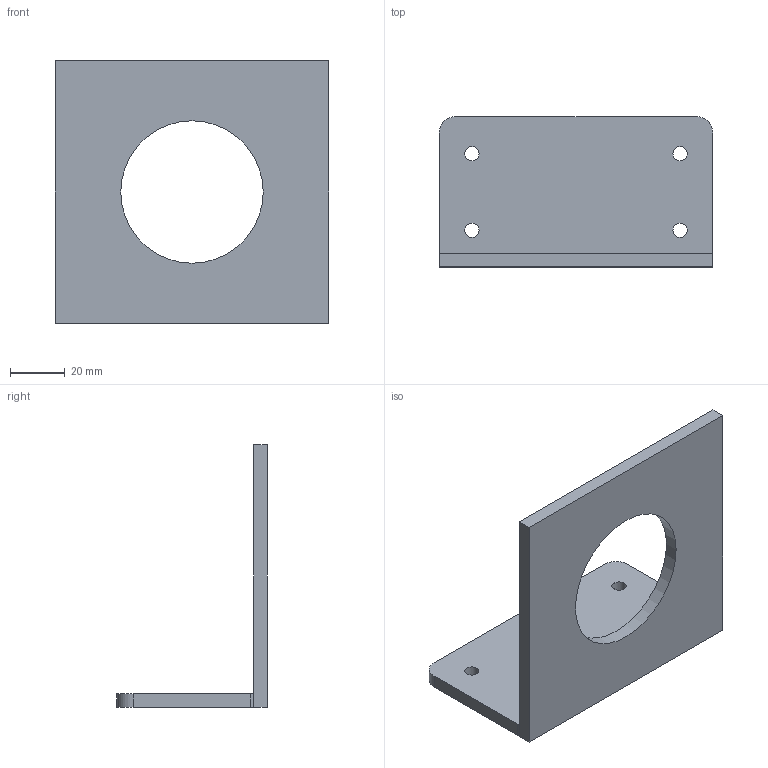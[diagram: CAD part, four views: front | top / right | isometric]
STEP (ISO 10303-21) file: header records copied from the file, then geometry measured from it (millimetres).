
FILE_DESCRIPTION(('Open CASCADE Model'),'2;1');
FILE_NAME('Open CASCADE Shape Model','2026-09-16T16:54:27',('Author'),( 'Open CASCADE'),'Open CASCADE STEP processor 7.8','Open CASCADE 7.8' ,'Unknown');
FILE_SCHEMA(('AUTOMOTIVE_DESIGN { 1 0 10303 214 1 1 1 1 }'));
Length unit declared in the file: millimetre
Products named in the file (1): Open CASCADE STEP translator 7.8 7
Bounding box: 100 x 55 x 96 mm (x, y, z)
Volume: 61879.1 mm3; surface area: 28330.3 mm2
Topology: 1 solids, 1 shells, 19 faces, 51 edges, 34 vertices
Faces by surface type: plane 10, cylinder 9
Full cylindrical faces by diameter (mm): 5.2 x4, 52 x1
Entity records: 1302 total; most frequent: CARTESIAN_POINT 237, DIRECTION 201, LINE 111, VECTOR 111, ORIENTED_EDGE 102, PCURVE 102, DEFINITIONAL_REPRESENTATION 102, EDGE_CURVE 51
